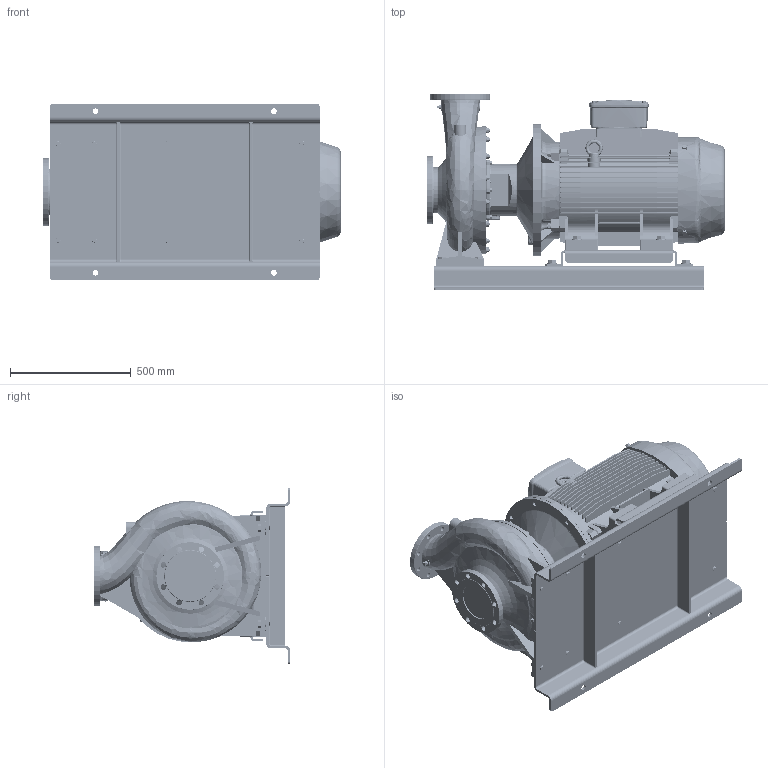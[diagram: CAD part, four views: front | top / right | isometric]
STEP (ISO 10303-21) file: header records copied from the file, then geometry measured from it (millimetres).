
FILE_DESCRIPTION (( 'STEP AP214' ), '1' );
FILE_NAME ('GSD4 125-400_55_(250SM)_W21_BP.STEP', '2026-05-08T03:40:04', ( '' ), ( '' ), 'SwSTEP 2.0', 'SolidWorks 2024', '' );
FILE_SCHEMA (( 'AUTOMOTIVE_DESIGN' ));
Length unit declared in the file: millimetre
Products named in the file (12): Parametric bolt and washer_SFT-A403B; Parametric bolt and washer_SFT-A411B; N9S4 GSDA-945 F1-1832977-00; Parametric bolt_SFT-A411B; Parametric bolt and washer_SFT-A399B; CGS11-5292; Parametric bolt_SFT-A399B; Parametric bolt_SFT-A403B; 250S_M4P IE3_W21T_B35; 125-400-250S_M_ﾃﾞﾌｫﾙﾄ; Parametric Flat Washer_M20; GSD4 125-400_55_(250SM)_W21_BP
Assembly tree (22 placements, depth 3):
  GSD4 125-400_55_(250SM)_W21_BP
    125-400-250S_M_ﾃﾞﾌｫﾙﾄ
    250S_M4P IE3_W21T_B35
    N9S4 GSDA-945 F1-1832977-00
    CGS11-5292
    Parametric bolt and washer_SFT-A403B  x4
      Parametric bolt_SFT-A403B
      Parametric Flat Washer_M20
    Parametric bolt and washer_SFT-A411B  x4
      Parametric bolt_SFT-A411B
      Parametric Flat Washer_M20
    Parametric bolt and washer_SFT-A399B  x4
      Parametric bolt_SFT-A399B
      Parametric Flat Washer_M20
Bounding box: 1240.5 x 815 x 730 mm (x, y, z)
Volume: 180045762.6 mm3; surface area: 8750504.7 mm2
Topology: 37 solids, 42 shells, 4646 faces, 12172 edges, 7753 vertices
Faces by surface type: plane 1815, cylinder 1606, cone 559, bspline 334, torus 314, sphere 18
Entity records: 189483 total; most frequent: CARTESIAN_POINT 94606, ORIENTED_EDGE 20726, DIRECTION 18864, EDGE_CURVE 10363, AXIS2_PLACEMENT_3D 6958, VERTEX_POINT 6586, VECTOR 4948, LINE 4948
